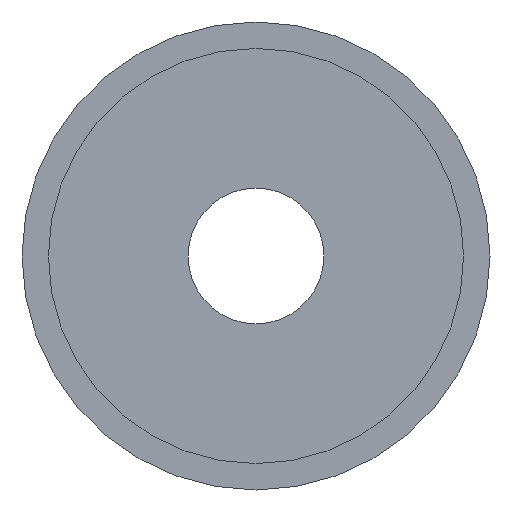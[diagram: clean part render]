
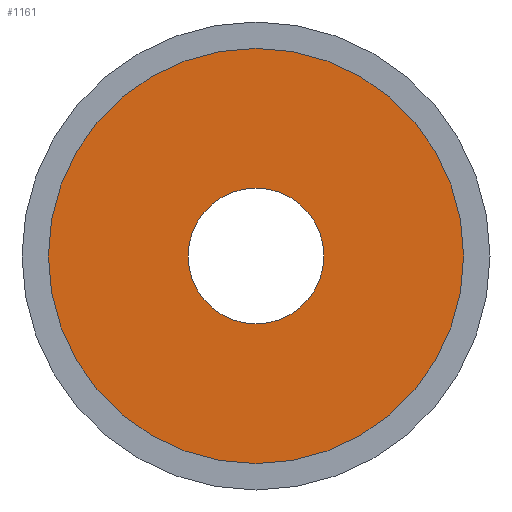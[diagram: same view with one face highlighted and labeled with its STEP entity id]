
A CAD part, front view. The second image highlights one B-rep face of the part: STEP entity #1161.
In plain terms, the highlighted planar face has unit normal (0, -1, 0).
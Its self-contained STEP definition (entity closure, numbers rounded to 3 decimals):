
#43 = CARTESIAN_POINT ( 'NONE',  ( 0., -15., 9. ) ) ;
#52 = DIRECTION ( 'NONE',  ( 0., 1., 0. ) ) ;
#103 = DIRECTION ( 'NONE',  ( 0., -1., 0. ) ) ;
#137 = ORIENTED_EDGE ( 'NONE', *, *, #746, .T. ) ;
#204 = FACE_OUTER_BOUND ( 'NONE', #932, .T. ) ;
#312 = DIRECTION ( 'NONE',  ( 0., -1., 0. ) ) ;
#403 = FACE_BOUND ( 'NONE', #2037, .T. ) ;
#422 = AXIS2_PLACEMENT_3D ( 'NONE', #745, #103, #1870 ) ;
#474 = EDGE_CURVE ( 'NONE', #648, #1890, #1488, .T. ) ;
#484 = CIRCLE ( 'NONE', #422, 9. ) ;
#513 = PLANE ( 'NONE',  #943 ) ;
#571 = DIRECTION ( 'NONE',  ( 0., -1., 0. ) ) ;
#596 = AXIS2_PLACEMENT_3D ( 'NONE', #2027, #571, #1043 ) ;
#648 = VERTEX_POINT ( 'NONE', #1991 ) ;
#656 = DIRECTION ( 'NONE',  ( 0., 0., -1. ) ) ;
#745 = CARTESIAN_POINT ( 'NONE',  ( 0., -15., 0. ) ) ;
#746 = EDGE_CURVE ( 'NONE', #1759, #1307, #1371, .T. ) ;
#863 = ORIENTED_EDGE ( 'NONE', *, *, #1877, .T. ) ;
#932 = EDGE_LOOP ( 'NONE', ( #863, #137 ) ) ;
#941 = DIRECTION ( 'NONE',  ( 0., 0., -1. ) ) ;
#943 = AXIS2_PLACEMENT_3D ( 'NONE', #43, #52, #1634 ) ;
#1043 = DIRECTION ( 'NONE',  ( 0., 0., -1. ) ) ;
#1064 = AXIS2_PLACEMENT_3D ( 'NONE', #1956, #1623, #656 ) ;
#1096 = CARTESIAN_POINT ( 'NONE',  ( 0., -15., 27.5 ) ) ;
#1143 = CIRCLE ( 'NONE', #1762, 27.5 ) ;
#1161 = ADVANCED_FACE ( 'NONE', ( #403, #204 ), #513, .F. ) ;
#1272 = CARTESIAN_POINT ( 'NONE',  ( 0., -15., -9. ) ) ;
#1307 = VERTEX_POINT ( 'NONE', #1507 ) ;
#1371 = CIRCLE ( 'NONE', #596, 27.5 ) ;
#1402 = EDGE_CURVE ( 'NONE', #1890, #648, #484, .T. ) ;
#1488 = CIRCLE ( 'NONE', #1064, 9. ) ;
#1507 = CARTESIAN_POINT ( 'NONE',  ( 0., -15., -27.5 ) ) ;
#1582 = ORIENTED_EDGE ( 'NONE', *, *, #474, .F. ) ;
#1623 = DIRECTION ( 'NONE',  ( 0., -1., 0. ) ) ;
#1634 = DIRECTION ( 'NONE',  ( 0., 0., 1. ) ) ;
#1756 = CARTESIAN_POINT ( 'NONE',  ( 0., -15., 0. ) ) ;
#1759 = VERTEX_POINT ( 'NONE', #1096 ) ;
#1762 = AXIS2_PLACEMENT_3D ( 'NONE', #1756, #312, #941 ) ;
#1870 = DIRECTION ( 'NONE',  ( 0., 0., -1. ) ) ;
#1877 = EDGE_CURVE ( 'NONE', #1307, #1759, #1143, .T. ) ;
#1890 = VERTEX_POINT ( 'NONE', #1272 ) ;
#1956 = CARTESIAN_POINT ( 'NONE',  ( 0., -15., 0. ) ) ;
#1959 = ORIENTED_EDGE ( 'NONE', *, *, #1402, .F. ) ;
#1991 = CARTESIAN_POINT ( 'NONE',  ( 0., -15., 9. ) ) ;
#2027 = CARTESIAN_POINT ( 'NONE',  ( 0., -15., 0. ) ) ;
#2037 = EDGE_LOOP ( 'NONE', ( #1959, #1582 ) ) ;
